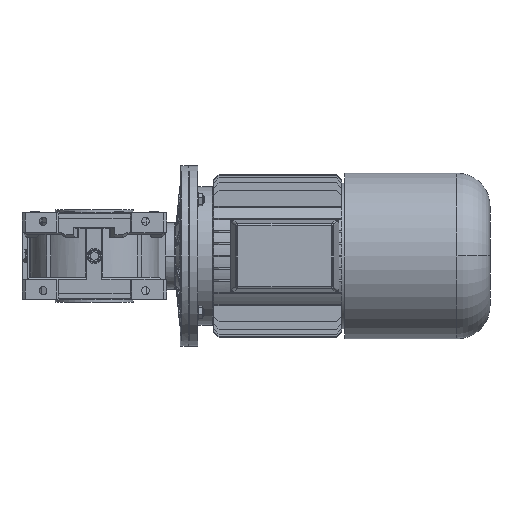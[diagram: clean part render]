
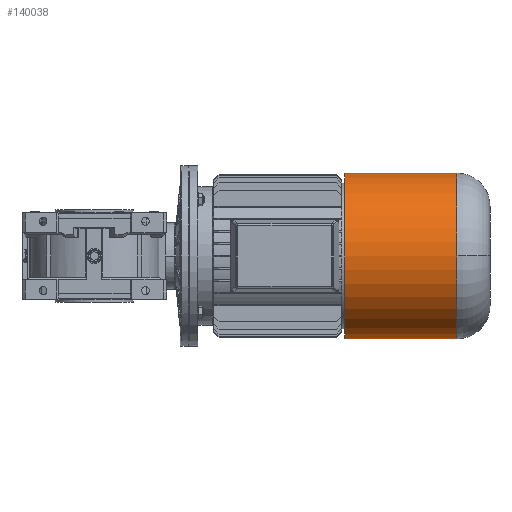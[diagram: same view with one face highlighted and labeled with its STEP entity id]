
A CAD part, front view. The second image highlights one B-rep face of the part: STEP entity #140038.
In plain terms, the highlighted cylindrical face has radius 137.5 mm (diameter 275 mm), a partial arc.
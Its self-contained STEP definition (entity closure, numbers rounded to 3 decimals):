
#139988=CARTESIAN_POINT('',(431.0,0.0,0.0));
#139989=DIRECTION('',(1.0,0.0,0.0));
#139990=DIRECTION('',(0.0,1.0,0.0));
#139991=AXIS2_PLACEMENT_3D('',#139988,#139989,#139990);
#139992=CYLINDRICAL_SURFACE('',#139991,137.5);
#139993=CARTESIAN_POINT('',(338.0,137.5,0.0));
#139994=VERTEX_POINT('',#139993);
#139995=CARTESIAN_POINT('',(524.0,137.5,0.0));
#139996=VERTEX_POINT('',#139995);
#139997=CARTESIAN_POINT('',(338.0,137.5,0.0));
#139998=DIRECTION('',(1.0,0.0,0.0));
#139999=VECTOR('',#139998,186.0);
#140000=LINE('',#139997,#139999);
#140001=EDGE_CURVE('',#139994,#139996,#140000,.T.);
#140002=ORIENTED_EDGE('',*,*,#140001,.F.);
#140003=CARTESIAN_POINT('',(338.0,-137.5,0.));
#140004=VERTEX_POINT('',#140003);
#140005=CARTESIAN_POINT('',(338.0,0.0,0.0));
#140006=DIRECTION('',(1.0,0.0,0.0));
#140007=DIRECTION('',(0.0,1.0,0.0));
#140008=AXIS2_PLACEMENT_3D('',#140005,#140006,#140007);
#140009=CIRCLE('',#140008,137.5);
#140010=EDGE_CURVE('',#139994,#140004,#140009,.T.);
#140011=ORIENTED_EDGE('',*,*,#140010,.T.);
#140012=CARTESIAN_POINT('',(524.0,-137.5,0.));
#140013=VERTEX_POINT('',#140012);
#140014=CARTESIAN_POINT('',(524.0,-137.5,0.));
#140015=DIRECTION('',(-1.0,0.0,0.0));
#140016=VECTOR('',#140015,186.0);
#140017=LINE('',#140014,#140016);
#140018=EDGE_CURVE('',#140013,#140004,#140017,.T.);
#140019=ORIENTED_EDGE('',*,*,#140018,.F.);
#140020=CARTESIAN_POINT('',(524.0,0.,137.5));
#140021=VERTEX_POINT('',#140020);
#140022=CARTESIAN_POINT('',(524.0,0.0,0.0));
#140023=DIRECTION('',(1.0,0.0,0.0));
#140024=DIRECTION('',(0.0,1.0,0.0));
#140025=AXIS2_PLACEMENT_3D('',#140022,#140023,#140024);
#140026=CIRCLE('',#140025,137.5);
#140027=EDGE_CURVE('',#140021,#140013,#140026,.T.);
#140028=ORIENTED_EDGE('',*,*,#140027,.F.);
#140029=CARTESIAN_POINT('',(524.0,0.0,0.0));
#140030=DIRECTION('',(1.0,0.0,0.0));
#140031=DIRECTION('',(0.0,1.0,0.0));
#140032=AXIS2_PLACEMENT_3D('',#140029,#140030,#140031);
#140033=CIRCLE('',#140032,137.5);
#140034=EDGE_CURVE('',#139996,#140021,#140033,.T.);
#140035=ORIENTED_EDGE('',*,*,#140034,.F.);
#140036=EDGE_LOOP('',(#140002,#140011,#140019,#140028,#140035));
#140037=FACE_OUTER_BOUND('',#140036,.T.);
#140038=ADVANCED_FACE('',(#140037),#139992,.T.);
